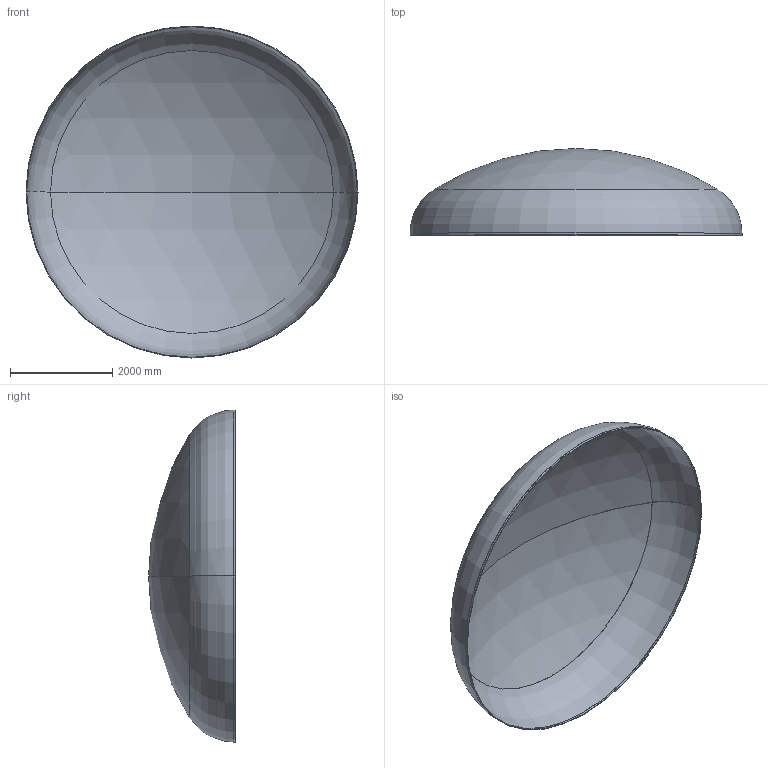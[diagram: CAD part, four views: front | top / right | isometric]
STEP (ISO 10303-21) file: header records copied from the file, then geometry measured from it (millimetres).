
FILE_DESCRIPTION (( 'STEP AP203' ), '1' );
FILE_NAME ('DIN 28013 Korbbogenform_-_Boden DIN 28013 - 6500 x 40 - I - s=13.step', '2016-07-04T10:39:58', ( '' ), ( '' ), 'SwSTEP 2.0', 'SolidWorks 2013', '' );
FILE_SCHEMA (( 'CONFIG_CONTROL_DESIGN' ));
Length unit declared in the file: millimetre
Products named in the file (1): DIN 28013 Korbbogenform_-_Boden DIN 28013 - 6500 x 40 - I - s=13
Bounding box: 6500 x 1698.31 x 6500 mm (x, y, z)
Volume: 606413699.1 mm3; surface area: 93559664.3 mm2
Topology: 1 solids, 1 shells, 13 faces, 24 edges, 14 vertices
Faces by surface type: torus 4, cylinder 4, sphere 4, plane 1
Entity records: 407 total; most frequent: DIRECTION 72, CARTESIAN_POINT 52, ORIENTED_EDGE 48, AXIS2_PLACEMENT_3D 34, EDGE_CURVE 24, CIRCLE 20, EDGE_LOOP 14, VERTEX_POINT 14
